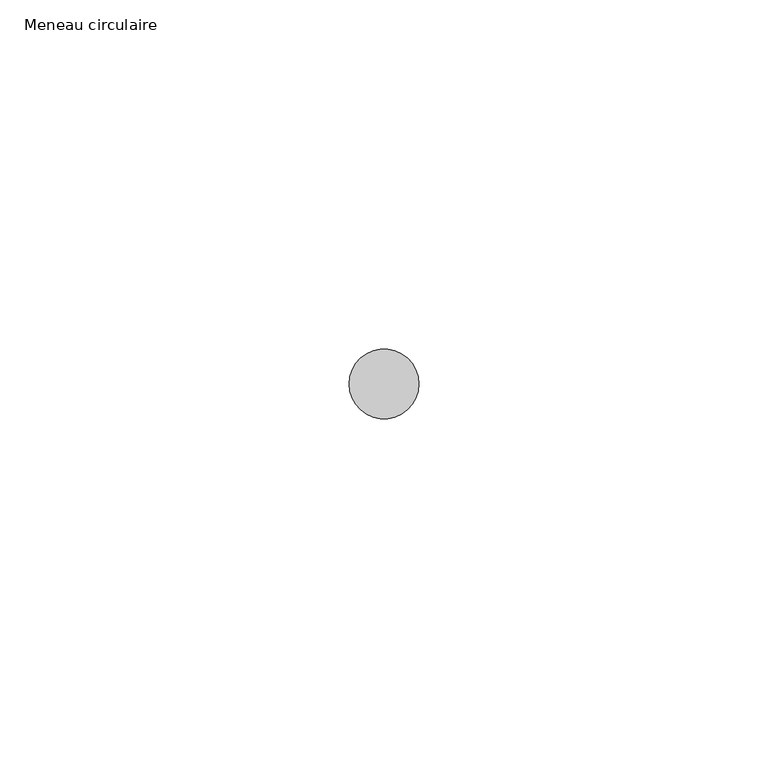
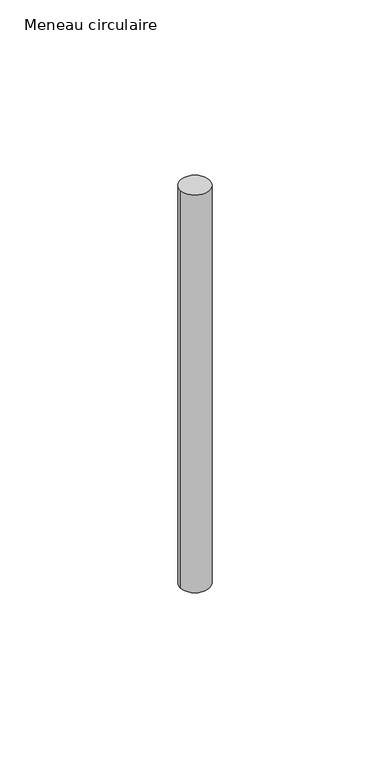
"""IFC4 building model written with IfcOpenShell, lengths in millimetres: member geometry, Meneau circulaire : Diamètre 1cm."""

import ifcopenshell
import ifcopenshell.guid

model = None  # the IFC model being written
_history = None  # IfcOwnerHistory: only IFC2X3 demands one
_inside = {}  # id of a spatial element -> (the spatial element, [elements in it])
_under = {}  # id of a project, library or spatial element -> (it, [spatial elements below it])
_declared = {}  # id of a project -> (the project, [libraries it declares])
_typed = {}  # id of a type object -> (the type object, [elements of that type])
_made_of = {}  # id of a material, layer set ... -> (it, [elements and type objects made of it])


def new_model(schema):
    """Start an empty IFC model of exactly this schema.

    Asked for "IFC4X3", IfcOpenShell would pick the latest addendum, in which some entities
    have other attributes; the version numbers below select the first issue.
    IFC2X3 requires an IfcOwnerHistory on every rooted entity: one is made here for all.
    """
    global model, _history
    if schema == "IFC4X3":
        model = ifcopenshell.file(schema_version=(4, 3, 0, 0))
    else:
        model = ifcopenshell.file(schema=schema)
    _inside.clear()
    _under.clear()
    _declared.clear()
    _typed.clear()
    _made_of.clear()
    _history = None
    if model.schema == "IFC2X3":
        org = make("IfcOrganization", Name="unknown")
        user = make(
            "IfcPersonAndOrganization",
            ThePerson=make("IfcPerson", FamilyName="unknown"),
            TheOrganization=org,
        )
        app = make(
            "IfcApplication",
            ApplicationDeveloper=org,
            Version="unknown",
            ApplicationFullName="unknown",
            ApplicationIdentifier="unknown",
        )
        _history = make(
            "IfcOwnerHistory",
            OwningUser=user,
            OwningApplication=app,
            ChangeAction="ADDED",
            CreationDate=0,
        )
    return model


def make(cls, **values):
    """One entity of the class cls with the attributes given. An attribute that is None is left unset."""
    return model.create_entity(
        cls, **{name: value for name, value in values.items() if value is not None}
    )


def rooted(cls, **values):
    """An entity with a GlobalId (a new one), such as an element, a storey or a relation."""
    return make(cls, GlobalId=ifcopenshell.guid.new(), OwnerHistory=_history, **values)


def si_unit(unit_type, name, prefix=None):
    """IfcSIUnit, for example si_unit("LENGTHUNIT", "METRE", prefix="MILLI")."""
    return make("IfcSIUnit", UnitType=unit_type, Prefix=prefix, Name=name)


def assignment(units):
    """IfcUnitAssignment: the units of a project."""
    return None if units is None else make("IfcUnitAssignment", Units=units)


def point(xyz):
    """IfcCartesianPoint."""
    return None if xyz is None else make("IfcCartesianPoint", Coordinates=xyz)


def direction(xyz):
    """IfcDirection."""
    return None if xyz is None else make("IfcDirection", DirectionRatios=xyz)


def frame(location, z_axis=None, x_axis=None):
    """IfcAxis2Placement3D, a coordinate frame: its origin and axes. An axis left out is left unset."""
    return make(
        "IfcAxis2Placement3D",
        Location=point(location),
        Axis=direction(z_axis),
        RefDirection=direction(x_axis),
    )


def frame_2d(location, x_axis=None):
    """IfcAxis2Placement2D, a coordinate frame in the plane: its origin and x axis."""
    return make(
        "IfcAxis2Placement2D", Location=point(location), RefDirection=direction(x_axis)
    )


def origin():
    """The frame at (0, 0, 0) with its axes left unset."""
    return frame((0.0, 0.0, 0.0))


def place(relative_to, where):
    """IfcLocalPlacement: puts the frame where relative to a parent placement (None: the world)."""
    return make(
        "IfcLocalPlacement", PlacementRelTo=relative_to, RelativePlacement=where
    )


def context(
    kind, dimensions, precision=None, world=None, true_north=None, identifier=None
):
    """IfcGeometricRepresentationContext, for example the 3D "Model" context."""
    return make(
        "IfcGeometricRepresentationContext",
        ContextIdentifier=identifier,
        ContextType=kind,
        CoordinateSpaceDimension=dimensions,
        Precision=precision,
        WorldCoordinateSystem=world,
        TrueNorth=true_north,
    )


def project(units=None, contexts=None):
    """IfcProject with its units and contexts."""
    return rooted(
        "IfcProject",
        Name="project",
        RepresentationContexts=contexts,
        UnitsInContext=assignment(units),
    )


def spatial(cls, under=None, at=None, **own):
    """A site, building, storey or space (cls), placed at a placement, below another one or the project."""
    s = rooted(cls, ObjectPlacement=at, **own)
    if under is not None:
        _under.setdefault(under.id(), (under, []))[1].append(s)
    return s


def circle_curve(where, radius):
    """IfcCircle in the frame where."""
    return make("IfcCircle", Position=where, Radius=radius)


def trimmed(basis, trim1, trim2, sense, master):
    """IfcTrimmedCurve: the piece of a basis curve between two trims."""
    return make(
        "IfcTrimmedCurve",
        BasisCurve=basis,
        Trim1=trim1,
        Trim2=trim2,
        SenseAgreement=sense,
        MasterRepresentation=master,
    )


def segment(curve, same_sense, transition):
    """IfcCompositeCurveSegment."""
    return make(
        "IfcCompositeCurveSegment",
        Transition=transition,
        SameSense=same_sense,
        ParentCurve=curve,
    )


def composite_curve(segments, self_intersect=None):
    """IfcCompositeCurve: segments joined end to end."""
    return make("IfcCompositeCurve", Segments=segments, SelfIntersect=self_intersect)


def outline(outer, holes=None, kind="AREA"):
    """IfcArbitraryClosedProfileDef: a profile drawn as a closed curve; with holes, ...WithVoids."""
    if holes is None:
        return make("IfcArbitraryClosedProfileDef", ProfileType=kind, OuterCurve=outer)
    return make(
        "IfcArbitraryProfileDefWithVoids",
        ProfileType=kind,
        OuterCurve=outer,
        InnerCurves=holes,
    )


def extrude(swept, where, along, depth):
    """IfcExtrudedAreaSolid: the profile swept, set in the frame where, extruded along a direction by depth."""
    return make(
        "IfcExtrudedAreaSolid",
        SweptArea=swept,
        Position=where,
        ExtrudedDirection=direction(along),
        Depth=depth,
    )


def shape(context_of_items, identifier, shape_type, items):
    """IfcShapeRepresentation: the items that make up one representation, for example the "Body"."""
    return make(
        "IfcShapeRepresentation",
        ContextOfItems=context_of_items,
        RepresentationIdentifier=identifier,
        RepresentationType=shape_type,
        Items=items,
    )


def source(mapping_origin, context_of_items, identifier, shape_type, items):
    """IfcRepresentationMap: a shape defined once, which mapped items show again and again."""
    return make(
        "IfcRepresentationMap",
        MappingOrigin=mapping_origin,
        MappedRepresentation=shape(context_of_items, identifier, shape_type, items),
    )


def transform(
    local_origin,
    x_axis=None,
    y_axis=None,
    z_axis=None,
    scale=None,
    scale2=None,
    scale3=None,
    uniform=True,
):
    """IfcCartesianTransformationOperator3D, or its non-uniform kind. x_axis, y_axis, z_axis: its Axis1, 2, 3."""
    if uniform:
        return make(
            "IfcCartesianTransformationOperator3D",
            Axis1=direction(x_axis),
            Axis2=direction(y_axis),
            LocalOrigin=point(local_origin),
            Scale=scale,
            Axis3=direction(z_axis),
        )
    return make(
        "IfcCartesianTransformationOperator3DnonUniform",
        Axis1=direction(x_axis),
        Axis2=direction(y_axis),
        LocalOrigin=point(local_origin),
        Scale=scale,
        Axis3=direction(z_axis),
        Scale2=scale2,
        Scale3=scale3,
    )


def mapped(mapping_source, mapping_target):
    """IfcMappedItem: shows the shape of a source again, moved by a transform."""
    return make(
        "IfcMappedItem", MappingSource=mapping_source, MappingTarget=mapping_target
    )


def made_of(thing, what):
    """Note that an element or type object is made of a material, layer set ...; save() writes the relation."""
    if what is not None:
        _made_of.setdefault(what.id(), (what, []))[1].append(thing)
    return thing


def element(
    cls,
    number,
    at=None,
    inside=None,
    cuts=None,
    type_object=None,
    material=None,
    context=None,
    identifier="Body",
    shape_type=None,
    held_by="IfcProductDefinitionShape",
    body=None,
    shapes=None,
    **own,
):
    """One element of the class cls, such as IfcWall. Its Tag is "e" and its number.

    at: its placement. inside: the storey or other place that contains it. cuts: it is an
    opening in that element (IfcRelVoidsElement). A single representation is given by context,
    identifier, shape_type and body (its items); several are given by shapes. held_by: the class
    of the entity that holds the representations. save() writes the other relations.
    """
    e = rooted(cls, Tag="e%d" % number, ObjectPlacement=at, **own)
    if body is not None:
        shapes = [shape(context, identifier, shape_type, body)]
    if shapes is not None:
        e.Representation = make(held_by, Representations=shapes)
    if inside is not None:
        _inside.setdefault(inside.id(), (inside, []))[1].append(e)
    if cuts is not None:
        rooted(
            "IfcRelVoidsElement", RelatingBuildingElement=cuts, RelatedOpeningElement=e
        )
    if type_object is not None:
        _typed.setdefault(type_object.id(), (type_object, []))[1].append(e)
    return made_of(e, material)


def aggregate(whole, parts):
    """IfcRelAggregates: a whole, such as a stair, and the parts it consists of."""
    return rooted("IfcRelAggregates", RelatingObject=whole, RelatedObjects=parts)


def save(model, path):
    """Write the relations noted so far, then the file.

    IfcRelAggregates (storeys below a building ...), IfcRelContainedInSpatialStructure (elements
    in a storey), IfcRelDefinesByType, IfcRelAssociatesMaterial and IfcRelDeclares: one each for
    every whole, place, type object, material and project.
    """
    for whole, parts in _under.values():
        aggregate(whole, parts)
    for where, things in _inside.values():
        rooted(
            "IfcRelContainedInSpatialStructure",
            RelatedElements=things,
            RelatingStructure=where,
        )
    for kind, things in _typed.values():
        rooted("IfcRelDefinesByType", RelatedObjects=things, RelatingType=kind)
    for what, things in _made_of.values():
        rooted("IfcRelAssociatesMaterial", RelatedObjects=things, RelatingMaterial=what)
    for by, libraries in _declared.values():
        rooted("IfcRelDeclares", RelatingContext=by, RelatedDefinitions=libraries)
    model.write(path)


def meneau_circulaire_a3b9de2d(model_context):
    return source(origin(), model_context, "Body", "SweptSolid", [
        extrude(outline(composite_curve([segment(trimmed(circle_curve(frame_2d((-5.0, 0.0)), 5.0), [point((0.0, 0.0))], [point((-10.0, 0.0))], False, "CARTESIAN"), True, "CONTINUOUS"), segment(trimmed(circle_curve(frame_2d((-5.0, 0.0)), 5.0), [point((-10.0, 0.0))], [point((0.0, 0.0))], False, "CARTESIAN"), True, "CONTINUOUS")], self_intersect=False)), frame((0.0, 0.0, -141.4211122), z_axis=(0.0, 0.0, 1.0), x_axis=(1.0, 0.0, 0.0)), (0.0, 0.0, 1.0), 141.4211122),
    ])


if __name__ == "__main__":
    model = new_model("IFC4")
    model_context = context("Model", 3, world=origin())
    ifc_project = project(units=[si_unit("LENGTHUNIT", "METRE", prefix="MILLI")], contexts=[model_context])
    site = spatial("IfcSite", under=ifc_project)
    building = spatial("IfcBuilding", under=site)
    placement = place(None, origin())
    meneau_circulaire_shape = meneau_circulaire_a3b9de2d(model_context)
    element("IfcMember", 1, ObjectType="Meneau circulaire : Diamètre 1cm", at=placement, inside=building, context=model_context, shape_type="MappedRepresentation", body=[
        mapped(meneau_circulaire_shape, transform((0.0, 0.0, 0.0), x_axis=(1.0, 0.0, 0.0), y_axis=(0.0, 1.0, 0.0), z_axis=(0.0, 0.0, 1.0))),
    ])
    save(model, "model.ifc")
